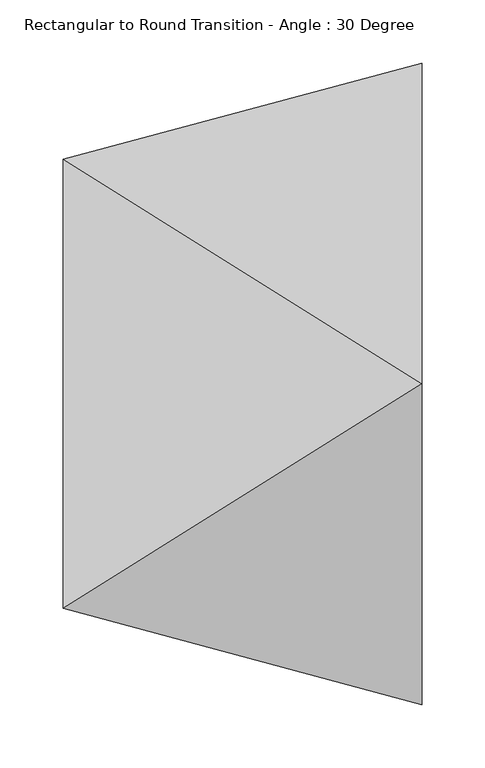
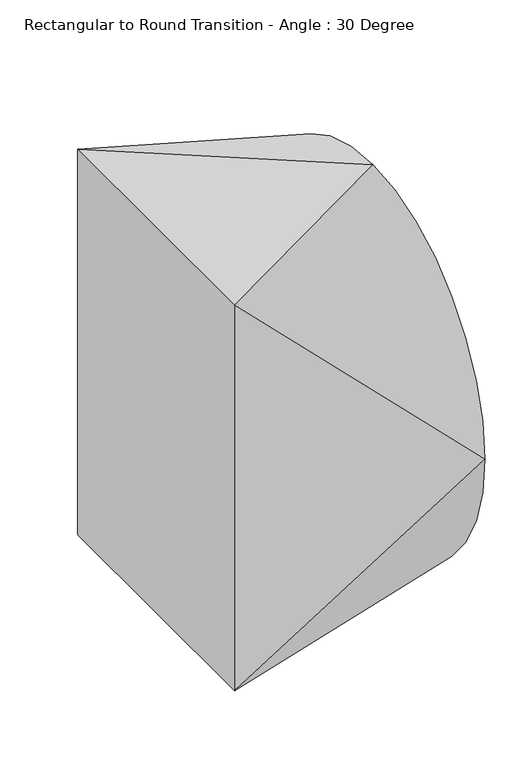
"""IFC4 building model written with IfcOpenShell, lengths in millimetres: duct fitting geometry, Rectangular to Round Transition - Angle : 30 Degree."""

from ifc_helpers import new_model, si_unit, frame, origin, place, context, project, spatial, circle_curve, source, transform, mapped, element, save
from ifc_brep_helpers import plane_surface, spline_surface, advanced_brep


def rectangular_to_round_transition_angle_30_degree_7764bc1d(model_context):
    return source(origin(), model_context, "Body", "AdvancedBrep", [
        advanced_brep(
        [(284.3822715, 0.0, 254.0), (284.3822715, -254.0, 0.0), (284.3822715, 0.0, -254.0), (284.3822715, 254.0, 0.0), (0.0, 177.8, 266.7), (0.0, 177.8, -266.7), (0.0, -177.8, -266.7), (0.0, -177.8, 266.7)],
        [
            (0, 1, circle_curve(frame((284.3822715, 0.0, 0.0), z_axis=(1.0, 0.0, 0.0), x_axis=(0.0, -1.0, 0.0)), 254.0)),
            (1, 2, circle_curve(frame((284.3822715, 0.0, 0.0), z_axis=(1.0, 0.0, 0.0), x_axis=(0.0, -1.0, 0.0)), 254.0)),
            (2, 3, circle_curve(frame((284.3822715, 0.0, 0.0), z_axis=(1.0, 0.0, 0.0), x_axis=(0.0, -1.0, 0.0)), 254.0)),
            (3, 0, circle_curve(frame((284.3822715, 0.0, 0.0), z_axis=(1.0, 0.0, 0.0), x_axis=(0.0, -1.0, 0.0)), 254.0)),
            (4, 5),
            (5, 6),
            (6, 7),
            (7, 4),
            (3, 4),
            (4, 0),
            (3, 5),
            (2, 5),
            (2, 6),
            (1, 6),
            (1, 7),
            (0, 7),
        ],
        [
            plane_surface(frame((284.3822715, 0.0, 0.0), z_axis=(1.0, 0.0, 0.0), x_axis=(0.0, 0.0, -1.0))),
            plane_surface(frame((0.0, 0.0, 0.0), z_axis=(-1.0, 0.0, 0.0), x_axis=(0.0, 0.0, -1.0))),
            spline_surface(1, 2, [[(0.0, 177.8, 266.7), (0.0, 177.8, 266.7), (0.0, 177.8, 266.7)], [(284.3822715, 0.0, 254.0), (284.3822715, 254.0, 254.0), (284.3822715, 254.0, 0.0)]], [2, 2], [3, 3], [0.0, 1.0], [0.0, 1.0], weights=[[1.0, 0.7071067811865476, 1.0], [1.0, 0.7071067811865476, 1.0]]),
            plane_surface(frame((0.0, 177.8, 0.0), z_axis=(-0.2588190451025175, 0.9659258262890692, 0.0), x_axis=(0.0, 0.0, -1.0))),
            spline_surface(1, 2, [[(0.0, 177.8, -266.7), (0.0, 177.8, -266.7), (0.0, 177.8, -266.7)], [(284.3822715, 254.0, 0.0), (284.3822715, 254.0, -254.0), (284.3822715, 0.0, -254.0)]], [2, 2], [3, 3], [0.0, 1.0], [0.0, 1.0], weights=[[1.0, 0.7071067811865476, 1.0], [1.0, 0.7071067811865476, 1.0]]),
            plane_surface(frame((0.0, 0.0, -266.7), z_axis=(0.044613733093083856, 0.0, -0.9990043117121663), x_axis=(0.0, -1.0, 0.0))),
            spline_surface(1, 2, [[(0.0, -177.8, -266.7), (0.0, -177.8, -266.7), (0.0, -177.8, -266.7)], [(284.3822715, 0.0, -254.0), (284.3822715, -254.0, -254.0), (284.3822715, -254.0, 0.0)]], [2, 2], [3, 3], [0.0, 1.0], [0.0, 1.0], weights=[[1.0, 0.7071067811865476, 1.0], [1.0, 0.7071067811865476, 1.0]]),
            plane_surface(frame((0.0, -177.8, 0.0), z_axis=(-0.25881904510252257, -0.9659258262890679, 0.0), x_axis=(0.0, 0.0, 1.0))),
            spline_surface(1, 2, [[(0.0, -177.8, 266.7), (0.0, -177.8, 266.7), (0.0, -177.8, 266.7)], [(284.3822715, -254.0, 0.0), (284.3822715, -254.0, 254.0), (284.3822715, 0.0, 254.0)]], [2, 2], [3, 3], [0.0, 1.0], [0.0, 1.0], weights=[[1.0, 0.7071067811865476, 1.0], [1.0, 0.7071067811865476, 1.0]]),
            plane_surface(frame((0.0, 0.0, 266.7), z_axis=(0.044613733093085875, 0.0, 0.9990043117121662), x_axis=(0.0, 1.0, 0.0))),
        ],
        [
            (0, [[1, 2, 3, 4]]),
            (1, [[5, 6, 7, 8]]),
            (2, [[9, 10, -4]]),
            (3, [[-9, 11, -5]]),
            (4, [[12, -11, -3]]),
            (5, [[-12, 13, -6]]),
            (6, [[14, -13, -2]]),
            (7, [[-14, 15, -7]]),
            (8, [[16, -15, -1]]),
            (9, [[-16, -10, -8]]),
        ],
    ),
    ])


if __name__ == "__main__":
    model = new_model("IFC4")
    model_context = context("Model", 3, world=origin())
    ifc_project = project(units=[si_unit("LENGTHUNIT", "METRE", prefix="MILLI")], contexts=[model_context])
    site = spatial("IfcSite", under=ifc_project)
    building = spatial("IfcBuilding", under=site)
    placement = place(None, origin())
    rectangular_to_round_transition_angle_30_degree_shape = rectangular_to_round_transition_angle_30_degree_7764bc1d(model_context)
    element("IfcDuctFitting", 1, ObjectType="Rectangular to Round Transition - Angle : 30 Degree", at=placement, inside=building, context=model_context, shape_type="MappedRepresentation", body=[
        mapped(rectangular_to_round_transition_angle_30_degree_shape, transform((0.0, 0.0, 0.0), x_axis=(1.0, 0.0, 0.0), y_axis=(0.0, 1.0, 0.0), z_axis=(0.0, 0.0, 1.0))),
    ])
    save(model, "model.ifc")
